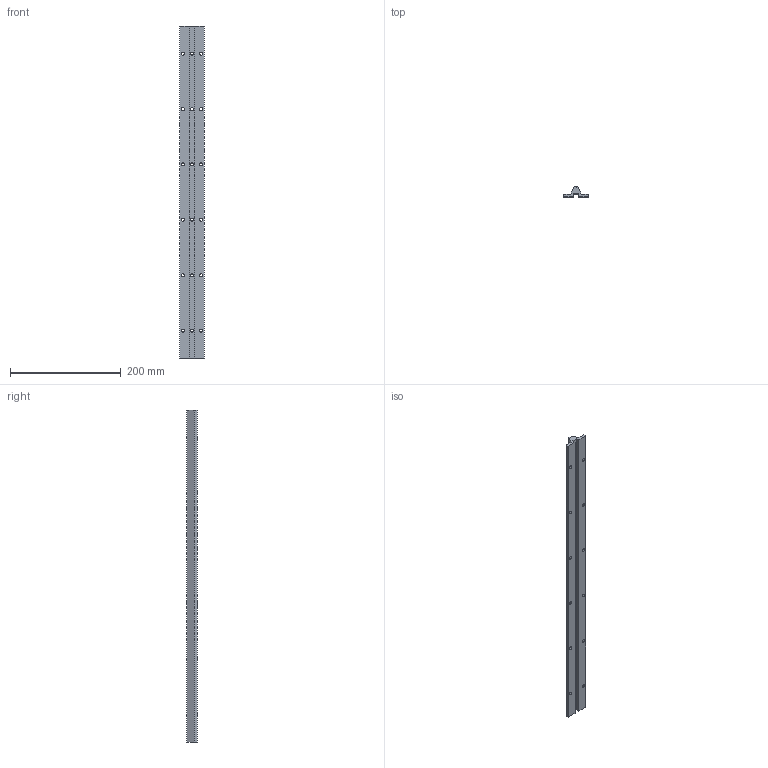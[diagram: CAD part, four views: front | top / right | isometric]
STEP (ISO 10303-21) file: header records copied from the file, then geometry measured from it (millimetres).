
FILE_DESCRIPTION (( 'STEP AP203' ), '1' );
FILE_NAME ('KWU50-16 T1-T2.step', '2020-03-23T07:54:55', ( '' ), ( '' ), 'SwSTEP 2.0', 'SolidWorks 2019', '' );
FILE_SCHEMA (( 'CONFIG_CONTROL_DESIGN' ));
Length unit declared in the file: millimetre
Products named in the file (2): KWU50-16 T1-T2
Bounding box: 45 x 18.71 x 599.5 mm (x, y, z)
Volume: 205100.3 mm3; surface area: 79949.4 mm2
Topology: 1 solids, 1 shells, 51 faces, 153 edges, 98 vertices
Faces by surface type: cylinder 36, plane 15
Entity records: 1958 total; most frequent: CARTESIAN_POINT 340, DIRECTION 307, ORIENTED_EDGE 306, EDGE_CURVE 153, AXIS2_PLACEMENT_3D 113, VERTEX_POINT 98, EDGE_LOOP 81, VECTOR 81
